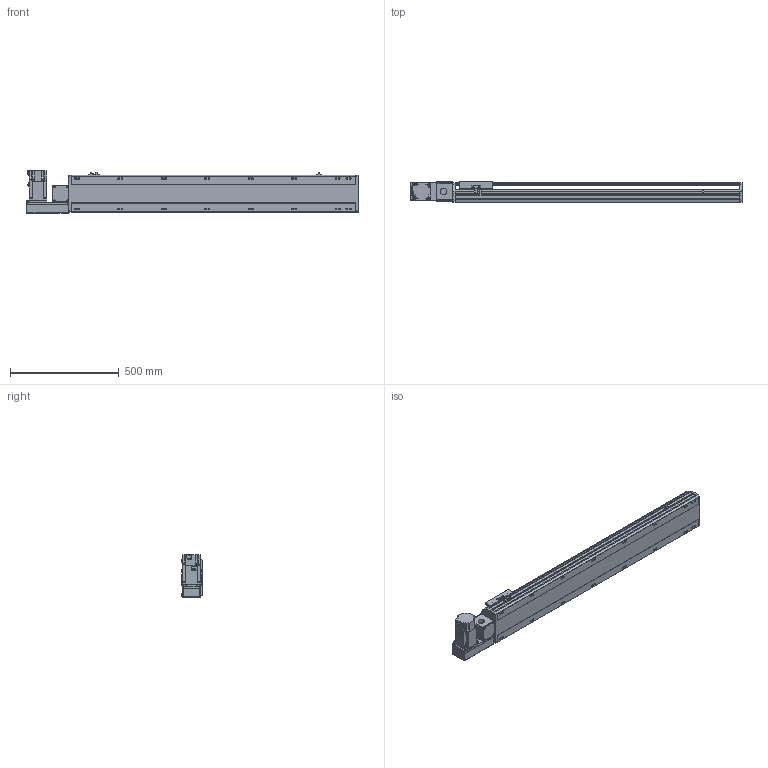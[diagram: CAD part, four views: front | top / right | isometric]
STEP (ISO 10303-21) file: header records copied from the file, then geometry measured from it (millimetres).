
FILE_DESCRIPTION( ( 'STEP AP214' ), '1' );
FILE_NAME( 'x:/temp/worker_2/temp/exporttempdir_1320_63_kYTy3/format_0/PBS170-P40-S1050-L-T75-C1-N(0).stp', '2022-06-07T06:55:03', ( 'License CC BY-ND 4.0' ), ( 'CADENAS' ), ' ', 'PARTsolutions', ' ' );
FILE_SCHEMA( ( 'AUTOMOTIVE_DESIGN { 1 0 10303 214 1 1 1 1 }' ) );
Length unit declared in the file: millimetre
Products named in the file (7): PBS170-P40-S1050-L-T75-C1-N(0); _PBS170-S1050()_body; _PBS170T-L_motors; _T75-p1; _PBS170_sliser; _PBS170_plant; _PBS170_sensor
Assembly tree (8 placements, depth 2):
  PBS170-P40-S1050-L-T75-C1-N(0)
    _PBS170-S1050()_body
    _PBS170T-L_motors
    _T75-p1
    _PBS170_sliser
    _PBS170_plant
    _PBS170_sensor  x3
Bounding box: 1528 x 97 x 197.3 mm (x, y, z)
Volume: 11343947.6 mm3; surface area: 1484227.3 mm2
Topology: 8 solids, 8 shells, 1082 faces, 2875 edges, 1874 vertices
Faces by surface type: plane 687, cylinder 339, cone 46, sphere 8, torus 2
Full cylindrical faces by diameter (mm): 3.242 x4, 4 x2, 4.4 x4, 4.5 x6, 4.917 x4, 6 x9, 6.647 x24, 7 x2, 7.5 x4, 8 x8, 8.5 x16, 10 x4, 10.5 x16, 11 x2, 30 x2, 40 x1, 70 x1
Entity records: 39740 total; most frequent: CARTESIAN_POINT 6221, DIRECTION 5300, ORIENTED_EDGE 5028, EDGE_CURVE 2514, AXIS2_PLACEMENT_3D 1837, VERTEX_POINT 1730, LINE 1626, VECTOR 1626
